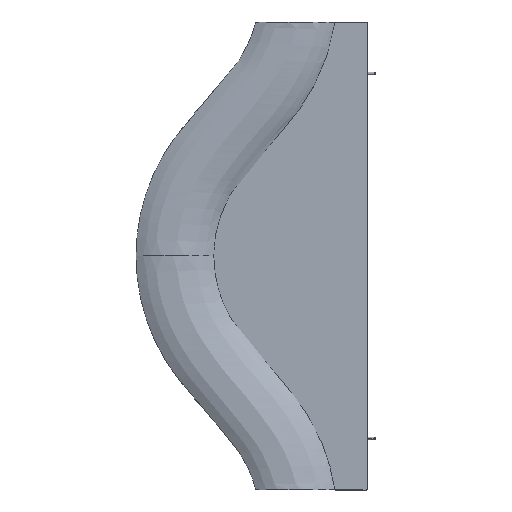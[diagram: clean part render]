
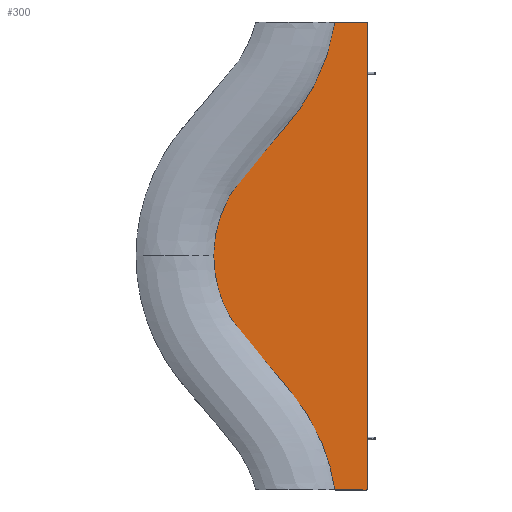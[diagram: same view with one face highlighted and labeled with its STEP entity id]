
A CAD part, front view. The second image highlights one B-rep face of the part: STEP entity #300.
In plain terms, the highlighted planar face has unit normal (0, -1, 0).
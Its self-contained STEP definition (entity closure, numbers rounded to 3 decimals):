
#300=ADVANCED_FACE('',(#518),#3619,.T.);
#518=FACE_OUTER_BOUND('',#774,.T.);
#774=EDGE_LOOP('',(#1943,#1944,#1945,#1946,#1947,#1948,#1949,#1950,#1951,
#1952,#1953,#1954));
#1943=ORIENTED_EDGE('',*,*,#2540,.F.);
#1944=ORIENTED_EDGE('',*,*,#2541,.T.);
#1945=ORIENTED_EDGE('',*,*,#2513,.F.);
#1946=ORIENTED_EDGE('',*,*,#2517,.F.);
#1947=ORIENTED_EDGE('',*,*,#2520,.F.);
#1948=ORIENTED_EDGE('',*,*,#2523,.F.);
#1949=ORIENTED_EDGE('',*,*,#2526,.F.);
#1950=ORIENTED_EDGE('',*,*,#2529,.F.);
#1951=ORIENTED_EDGE('',*,*,#2542,.F.);
#1952=ORIENTED_EDGE('',*,*,#2543,.T.);
#1953=ORIENTED_EDGE('',*,*,#2533,.F.);
#1954=ORIENTED_EDGE('',*,*,#2544,.T.);
#2513=EDGE_CURVE('',#3514,#3512,#2762,.T.);
#2517=EDGE_CURVE('',#3516,#3514,#3123,.T.);
#2520=EDGE_CURVE('',#3518,#3516,#2764,.T.);
#2523=EDGE_CURVE('',#3520,#3518,#3127,.T.);
#2526=EDGE_CURVE('',#3522,#3520,#2766,.T.);
#2529=EDGE_CURVE('',#3524,#3522,#3131,.T.);
#2533=EDGE_CURVE('',#3530,#3528,#2768,.T.);
#2540=EDGE_CURVE('',#3509,#3510,#2774,.T.);
#2541=EDGE_CURVE('',#3509,#3512,#2775,.T.);
#2542=EDGE_CURVE('',#3526,#3524,#2776,.T.);
#2543=EDGE_CURVE('',#3526,#3528,#2777,.T.);
#2544=EDGE_CURVE('',#3530,#3510,#2778,.T.);
#2762=(
BOUNDED_CURVE()
B_SPLINE_CURVE(2,(#36630,#36631,#36632),.UNSPECIFIED.,.F.,.F.)
B_SPLINE_CURVE_WITH_KNOTS((3,3),(0.,2.836),.UNSPECIFIED.)
CURVE()
GEOMETRIC_REPRESENTATION_ITEM()
RATIONAL_B_SPLINE_CURVE((1.,0.759,1.))
REPRESENTATION_ITEM('')
);
#2764=(
BOUNDED_CURVE()
B_SPLINE_CURVE(2,(#36646,#36647,#36648),.UNSPECIFIED.,.F.,.F.)
B_SPLINE_CURVE_WITH_KNOTS((3,3),(0.,3.142),.UNSPECIFIED.)
CURVE()
GEOMETRIC_REPRESENTATION_ITEM()
RATIONAL_B_SPLINE_CURVE((1.,0.707,1.))
REPRESENTATION_ITEM('')
);
#2766=(
BOUNDED_CURVE()
B_SPLINE_CURVE(2,(#36660,#36661,#36662),.UNSPECIFIED.,.F.,.F.)
B_SPLINE_CURVE_WITH_KNOTS((3,3),(0.,3.142),.UNSPECIFIED.)
CURVE()
GEOMETRIC_REPRESENTATION_ITEM()
RATIONAL_B_SPLINE_CURVE((1.,0.707,1.))
REPRESENTATION_ITEM('')
);
#2768=(
BOUNDED_CURVE()
B_SPLINE_CURVE(2,(#36676,#36677,#36678),.UNSPECIFIED.,.F.,.F.)
B_SPLINE_CURVE_WITH_KNOTS((3,3),(0.,300.823),.UNSPECIFIED.)
CURVE()
GEOMETRIC_REPRESENTATION_ITEM()
RATIONAL_B_SPLINE_CURVE((1.,1.,1.))
REPRESENTATION_ITEM('')
);
#2774=(
BOUNDED_CURVE()
B_SPLINE_CURVE(2,(#36696,#36697,#36698),.UNSPECIFIED.,.F.,.F.)
B_SPLINE_CURVE_WITH_KNOTS((3,3),(-299.469,0.),.UNSPECIFIED.)
CURVE()
GEOMETRIC_REPRESENTATION_ITEM()
RATIONAL_B_SPLINE_CURVE((1.,1.,1.))
REPRESENTATION_ITEM('')
);
#2775=(
BOUNDED_CURVE()
B_SPLINE_CURVE(2,(#36699,#36700,#36701),.UNSPECIFIED.,.F.,.F.)
B_SPLINE_CURVE_WITH_KNOTS((3,3),(0.,497.717),.UNSPECIFIED.)
CURVE()
GEOMETRIC_REPRESENTATION_ITEM()
RATIONAL_B_SPLINE_CURVE((1.,0.959,1.))
REPRESENTATION_ITEM('')
);
#2776=(
BOUNDED_CURVE()
B_SPLINE_CURVE(2,(#36702,#36703,#36704),.UNSPECIFIED.,.F.,.F.)
B_SPLINE_CURVE_WITH_KNOTS((3,3),(-2.836,0.),.UNSPECIFIED.)
CURVE()
GEOMETRIC_REPRESENTATION_ITEM()
RATIONAL_B_SPLINE_CURVE((1.,0.759,1.))
REPRESENTATION_ITEM('')
);
#2777=(
BOUNDED_CURVE()
B_SPLINE_CURVE(2,(#36705,#36706,#36707),.UNSPECIFIED.,.F.,.F.)
B_SPLINE_CURVE_WITH_KNOTS((3,3),(0.,497.719),.UNSPECIFIED.)
CURVE()
GEOMETRIC_REPRESENTATION_ITEM()
RATIONAL_B_SPLINE_CURVE((1.,0.959,1.))
REPRESENTATION_ITEM('')
);
#2778=(
BOUNDED_CURVE()
B_SPLINE_CURVE(2,(#36708,#36709,#36710),.UNSPECIFIED.,.F.,.F.)
B_SPLINE_CURVE_WITH_KNOTS((3,3),(0.,703.34),.UNSPECIFIED.)
CURVE()
GEOMETRIC_REPRESENTATION_ITEM()
RATIONAL_B_SPLINE_CURVE((1.,0.78,1.))
REPRESENTATION_ITEM('')
);
#3123=B_SPLINE_CURVE_WITH_KNOTS('',1,(#36639,#36640),.UNSPECIFIED.,.F.,
 .F.,(2,2),(0.,133.764),.UNSPECIFIED.);
#3127=B_SPLINE_CURVE_WITH_KNOTS('',1,(#36653,#36654),.UNSPECIFIED.,.F.,
 .F.,(2,2),(0.,1996.),.UNSPECIFIED.);
#3131=B_SPLINE_CURVE_WITH_KNOTS('',1,(#36667,#36668),.UNSPECIFIED.,.F.,
 .F.,(2,2),(0.,133.764),.UNSPECIFIED.);
#3509=VERTEX_POINT('',#36599);
#3510=VERTEX_POINT('',#36600);
#3512=VERTEX_POINT('',#36602);
#3514=VERTEX_POINT('',#36604);
#3516=VERTEX_POINT('',#36606);
#3518=VERTEX_POINT('',#36608);
#3520=VERTEX_POINT('',#36610);
#3522=VERTEX_POINT('',#36612);
#3524=VERTEX_POINT('',#36614);
#3526=VERTEX_POINT('',#36616);
#3528=VERTEX_POINT('',#36618);
#3530=VERTEX_POINT('',#36620);
#3619=PLANE('',#3857);
#3857=AXIS2_PLACEMENT_3D('',#36596,#3949,$);
#3949=DIRECTION('',(0.,-1.,0.));
#36596=CARTESIAN_POINT('',(4265.721,251.11,2578.99));
#36599=CARTESIAN_POINT('',(3811.567,251.11,824.803));
#36600=CARTESIAN_POINT('',(3617.935,251.11,1053.205));
#36602=CARTESIAN_POINT('',(4021.174,251.11,380.968));
#36604=CARTESIAN_POINT('',(4023.151,251.11,379.272));
#36606=CARTESIAN_POINT('',(4156.915,251.11,379.272));
#36608=CARTESIAN_POINT('',(4158.915,251.11,381.272));
#36610=CARTESIAN_POINT('',(4158.915,251.11,2377.272));
#36612=CARTESIAN_POINT('',(4156.915,251.11,2379.272));
#36614=CARTESIAN_POINT('',(4023.151,251.11,2379.272));
#36616=CARTESIAN_POINT('',(4021.175,251.11,2377.576));
#36618=CARTESIAN_POINT('',(3811.567,251.11,1933.738));
#36620=CARTESIAN_POINT('',(3617.087,251.11,1704.28));
#36630=CARTESIAN_POINT('',(4023.151,251.11,379.272));
#36631=CARTESIAN_POINT('',(4021.435,251.11,379.272));
#36632=CARTESIAN_POINT('',(4021.174,251.11,380.968));
#36639=CARTESIAN_POINT('',(4156.915,251.11,379.272));
#36640=CARTESIAN_POINT('',(4023.151,251.11,379.272));
#36646=CARTESIAN_POINT('',(4158.915,251.11,381.272));
#36647=CARTESIAN_POINT('',(4158.915,251.11,379.272));
#36648=CARTESIAN_POINT('',(4156.915,251.11,379.272));
#36653=CARTESIAN_POINT('',(4158.915,251.11,2377.272));
#36654=CARTESIAN_POINT('',(4158.915,251.11,381.272));
#36660=CARTESIAN_POINT('',(4156.915,251.11,2379.272));
#36661=CARTESIAN_POINT('',(4158.915,251.11,2379.272));
#36662=CARTESIAN_POINT('',(4158.915,251.11,2377.272));
#36667=CARTESIAN_POINT('',(4023.151,251.11,2379.272));
#36668=CARTESIAN_POINT('',(4156.915,251.11,2379.272));
#36676=CARTESIAN_POINT('',(3617.087,251.11,1704.28));
#36677=CARTESIAN_POINT('',(3711.271,251.11,1821.599));
#36678=CARTESIAN_POINT('',(3811.567,251.11,1933.738));
#36696=CARTESIAN_POINT('',(3811.567,251.11,824.803));
#36697=CARTESIAN_POINT('',(3711.723,251.11,936.437));
#36698=CARTESIAN_POINT('',(3617.935,251.11,1053.205));
#36699=CARTESIAN_POINT('',(3811.567,251.11,824.803));
#36700=CARTESIAN_POINT('',(3982.229,251.11,633.988));
#36701=CARTESIAN_POINT('',(4021.174,251.11,380.968));
#36702=CARTESIAN_POINT('',(4021.175,251.11,2377.576));
#36703=CARTESIAN_POINT('',(4021.436,251.11,2379.272));
#36704=CARTESIAN_POINT('',(4023.151,251.11,2379.272));
#36705=CARTESIAN_POINT('',(4021.175,251.11,2377.576));
#36706=CARTESIAN_POINT('',(3982.23,251.11,2124.554));
#36707=CARTESIAN_POINT('',(3811.567,251.11,1933.738));
#36708=CARTESIAN_POINT('',(3617.087,251.11,1704.28));
#36709=CARTESIAN_POINT('',(3356.737,251.11,1378.403));
#36710=CARTESIAN_POINT('',(3617.935,251.11,1053.205));
